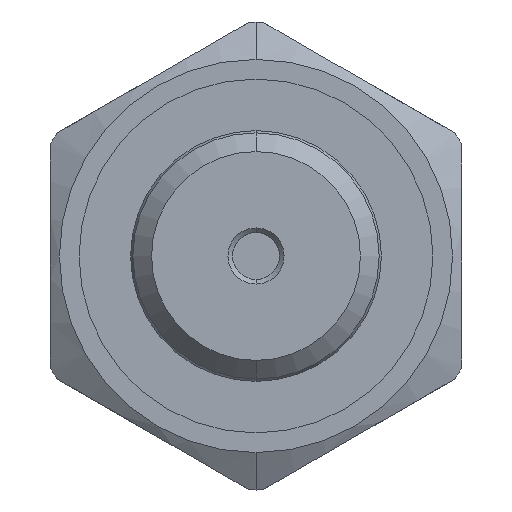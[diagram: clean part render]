
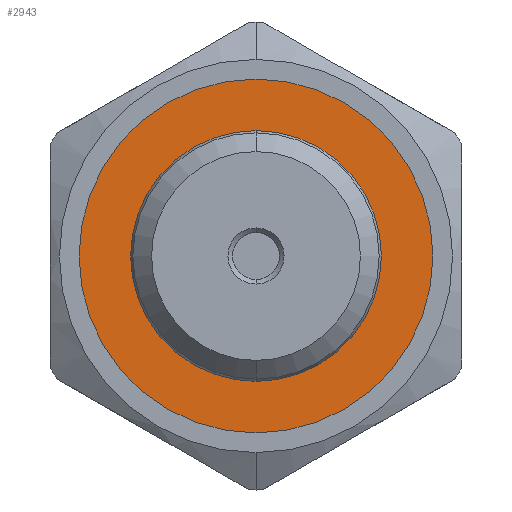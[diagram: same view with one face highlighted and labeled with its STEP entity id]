
A CAD part, front view. The second image highlights one B-rep face of the part: STEP entity #2943.
In plain terms, the highlighted planar face has unit normal (0, -1, 0).
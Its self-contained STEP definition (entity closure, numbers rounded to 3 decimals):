
#2943 = ADVANCED_FACE ( 'NONE', ( #20358, #20361 ), #20633, .T. ) ;
#3137 = EDGE_CURVE ( 'NONE', #4061, #4062, #21513, .T. ) ;
#3141 = EDGE_CURVE ( 'NONE', #4034, #4035, #21518, .T. ) ;
#3203 = EDGE_CURVE ( 'NONE', #4035, #4034, #21583, .T. ) ;
#3204 = EDGE_CURVE ( 'NONE', #4062, #4061, #21579, .T. ) ;
#4034 = VERTEX_POINT ( 'NONE', #24877 ) ;
#4035 = VERTEX_POINT ( 'NONE', #24878 ) ;
#4061 = VERTEX_POINT ( 'NONE', #24904 ) ;
#4062 = VERTEX_POINT ( 'NONE', #24905 ) ;
#14697 = AXIS2_PLACEMENT_3D ( 'NONE', #20632, #20638, #20639 ) ;
#14750 = AXIS2_PLACEMENT_3D ( 'NONE', #20882, #20883, #20884 ) ;
#14752 = AXIS2_PLACEMENT_3D ( 'NONE', #20892, #20893, #20894 ) ;
#14779 = AXIS2_PLACEMENT_3D ( 'NONE', #21149, #21150, #21151 ) ;
#14780 = AXIS2_PLACEMENT_3D ( 'NONE', #21152, #21153, #21154 ) ;
#17334 = EDGE_LOOP ( 'NONE', ( #18776, #18778 ) ) ;
#17889 = EDGE_LOOP ( 'NONE', ( #18779, #18780 ) ) ;
#18776 = ORIENTED_EDGE ( 'NONE', *, *, #3137, .T. ) ;
#18778 = ORIENTED_EDGE ( 'NONE', *, *, #3204, .T. ) ;
#18779 = ORIENTED_EDGE ( 'NONE', *, *, #3203, .F. ) ;
#18780 = ORIENTED_EDGE ( 'NONE', *, *, #3141, .F. ) ;
#20358 = FACE_OUTER_BOUND ( 'NONE', #17334, .T. ) ;
#20361 = FACE_BOUND ( 'NONE', #17889, .T. ) ;
#20632 = CARTESIAN_POINT ( 'NONE',  ( 2.81, 12., 0. ) ) ;
#20633 = PLANE ( 'NONE',  #14697 ) ;
#20638 = DIRECTION ( 'NONE',  ( 0., -1., 0. ) ) ;
#20639 = DIRECTION ( 'NONE',  ( 0., 0., -1. ) ) ;
#20882 = CARTESIAN_POINT ( 'NONE',  ( 0., 12., 0. ) ) ;
#20883 = DIRECTION ( 'NONE',  ( 0., -1., 0. ) ) ;
#20884 = DIRECTION ( 'NONE',  ( 0., 0., -1. ) ) ;
#20892 = CARTESIAN_POINT ( 'NONE',  ( 0., 12., 0. ) ) ;
#20893 = DIRECTION ( 'NONE',  ( 0., -1., 0. ) ) ;
#20894 = DIRECTION ( 'NONE',  ( 0., 0., -1. ) ) ;
#21149 = CARTESIAN_POINT ( 'NONE',  ( 0., 12., 0. ) ) ;
#21150 = DIRECTION ( 'NONE',  ( 0., -1., 0. ) ) ;
#21151 = DIRECTION ( 'NONE',  ( 0., 0., -1. ) ) ;
#21152 = CARTESIAN_POINT ( 'NONE',  ( 0., 12., 0. ) ) ;
#21153 = DIRECTION ( 'NONE',  ( 0., -1., 0. ) ) ;
#21154 = DIRECTION ( 'NONE',  ( 0., 0., -1. ) ) ;
#21513 = CIRCLE ( 'NONE', #14750, 9.45 ) ;
#21518 = CIRCLE ( 'NONE', #14752, 6.7 ) ;
#21579 = CIRCLE ( 'NONE', #14780, 9.45 ) ;
#21583 = CIRCLE ( 'NONE', #14779, 6.7 ) ;
#24877 = CARTESIAN_POINT ( 'NONE',  ( 0., 12., -6.7 ) ) ;
#24878 = CARTESIAN_POINT ( 'NONE',  ( 0., 12., 6.7 ) ) ;
#24904 = CARTESIAN_POINT ( 'NONE',  ( 0., 12., -9.45 ) ) ;
#24905 = CARTESIAN_POINT ( 'NONE',  ( 0., 12., 9.45 ) ) ;
